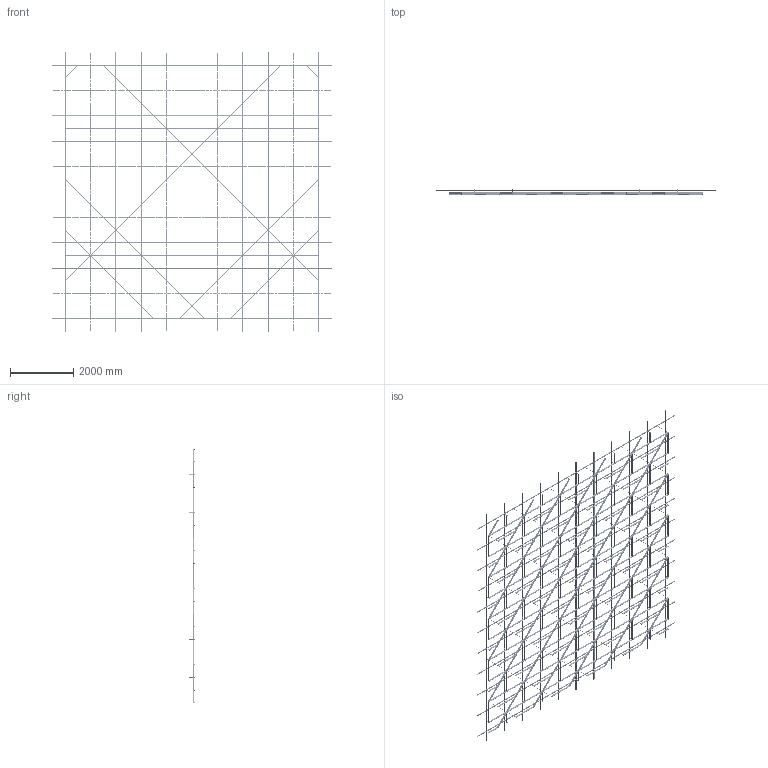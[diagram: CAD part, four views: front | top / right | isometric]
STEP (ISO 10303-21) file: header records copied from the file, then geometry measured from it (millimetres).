
FILE_DESCRIPTION (( 'STEP AP203' ), '1' );
FILE_NAME ('5 ìèíè ñ ïñ.step', '2025-11-25T13:23:29', ( '' ), ( '' ), 'SwSTEP 2.0', 'SolidWorks 2020', '' );
FILE_SCHEMA (( 'CONFIG_CONTROL_DESIGN' ));
Length unit declared in the file: millimetre
Products named in the file (5): Ñèñòåìà â çîíå 8000õ8000; SS.SEMA.2400 - Ñèìà-ïðîôèëü — îáðåçàí 1600; SS.SEMA.2400 - Ñèìà-ïðîôèëü; 5 ìèíè ñ ïñ; Var5
Assembly tree (90 placements, depth 3):
  5 ìèíè ñ ïñ
    Ñèñòåìà â çîíå 8000õ8000
      SS.SEMA.2400 - Ñèìà-ïðîôèëü  x66
      SS.SEMA.2400 - Ñèìà-ïðîôèëü — îáðåçàí 1600  x22
    Var5
Bounding box: 8800 x 158 x 8800 mm (x, y, z)
Volume: 138333620.9 mm3; surface area: 63238617.8 mm2
Topology: 1508 solids, 1508 shells, 23100 faces, 58844 edges, 38760 vertices
Faces by surface type: cylinder 13778, plane 9322
Entity records: 168471 total; most frequent: CARTESIAN_POINT 42274, ORIENTED_EDGE 24536, DIRECTION 23234, EDGE_CURVE 12268, AXIS2_PLACEMENT_3D 11368, VERTEX_POINT 8168, B_SPLINE_CURVE_WITH_KNOTS 7440, EDGE_LOOP 7106
